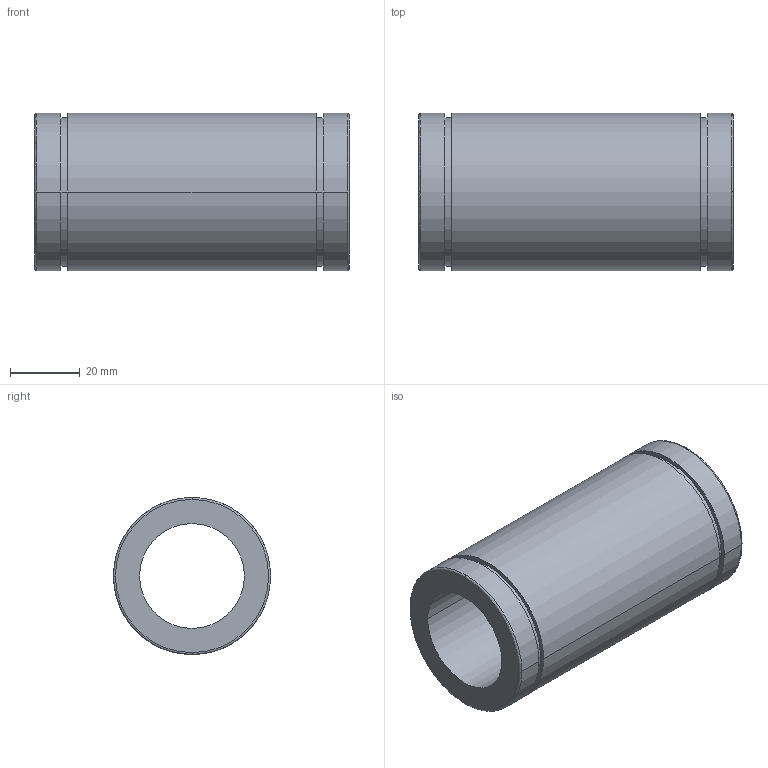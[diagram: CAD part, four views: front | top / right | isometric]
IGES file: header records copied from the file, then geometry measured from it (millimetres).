
Start section: 3D InterOp IGES (Version 21 0 1), Spatial Corp. Copyright (c) 1999-2007.
Global section: file name: N-30VM.igs; native system: Spatial Corp.; preprocessor: 3D InterOp GENERIC/IGES 3.0; author: Noname; organization: Noname; date: 20220516.092908; units: millimetre
Bounding box: 90 x 45 x 45 mm (x, y, z)
Surface area: 23557.1 mm2 (no closed solid volume)
Topology: 0 solids, 0 shells, 22 faces, 100 edges, 100 vertices
Faces by surface type: revolution 16, extrusion 6
